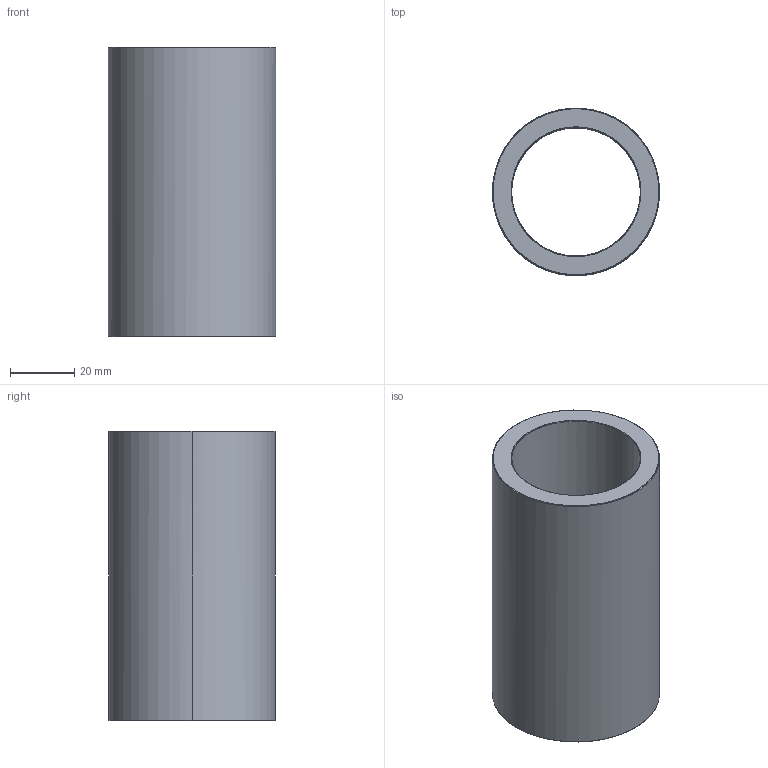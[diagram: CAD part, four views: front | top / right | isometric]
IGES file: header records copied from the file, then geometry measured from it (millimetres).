
Start section: Write IGES format                                    datakit 2008 (c)
Global section: file name: Unknown; native system: DATAKIT Converter; preprocessor: Unknown; author: Unknown; organization: Unknown; date: 950613.180003; units: millimetre
Bounding box: 52 x 51.89 x 90 mm (x, y, z)
Surface area: 27678.8 mm2 (no closed solid volume)
Topology: 0 solids, 0 shells, 14 faces, 56 edges, 56 vertices
Faces by surface type: revolution 12, bspline 2
